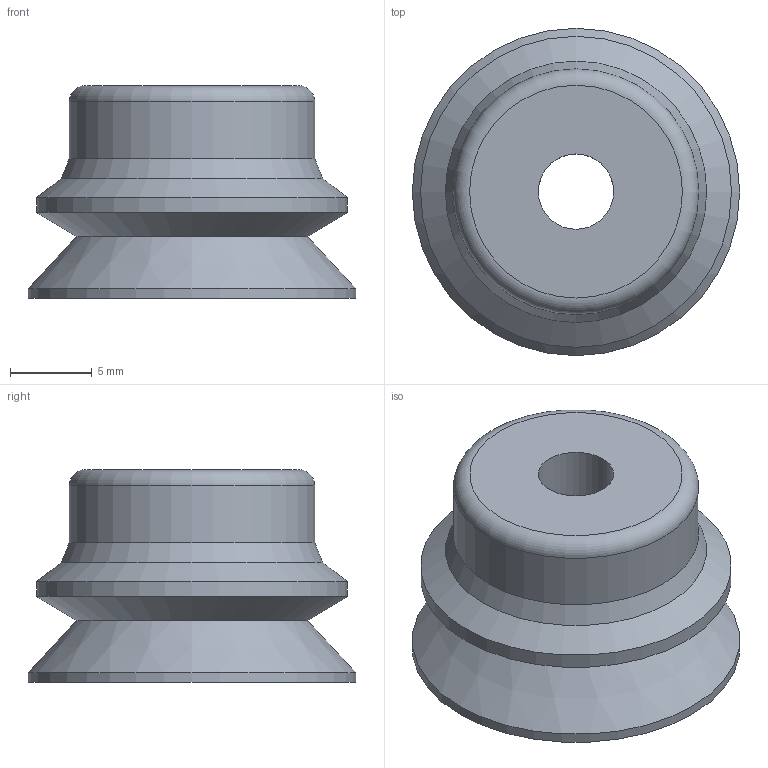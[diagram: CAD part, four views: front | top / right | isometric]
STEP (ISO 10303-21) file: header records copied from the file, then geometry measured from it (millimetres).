
FILE_DESCRIPTION(('STEP AP203'),'1');
FILE_NAME('PYKG-20.stp','2025-05-26T05:21:17',(' '),(' '),'Spatial InterOp 3D',' ',' ');
FILE_SCHEMA(('CONFIG_CONTROL_DESIGN'));
Length unit declared in the file: millimetre
Products named in the file (1): 1
Bounding box: 20 x 20 x 13 mm (x, y, z)
Volume: 1752.8 mm3; surface area: 1873.7 mm2
Topology: 1 solids, 1 shells, 19 faces, 34 edges, 19 vertices
Faces by surface type: cylinder 7, cone 7, plane 4, torus 1
Full cylindrical faces by diameter (mm): 4.6 x1, 6 x1, 10.8 x1, 15 x1, 18.4 x1, 19 x1, 20 x1
Entity records: 432 total; most frequent: DIRECTION 78, CARTESIAN_POINT 58, AXIS2_PLACEMENT_3D 39, EDGE_LOOP 38, ORIENTED_EDGE 38, FACE_OUTER_BOUND 27, ADVANCED_FACE 19, EDGE_CURVE 19
